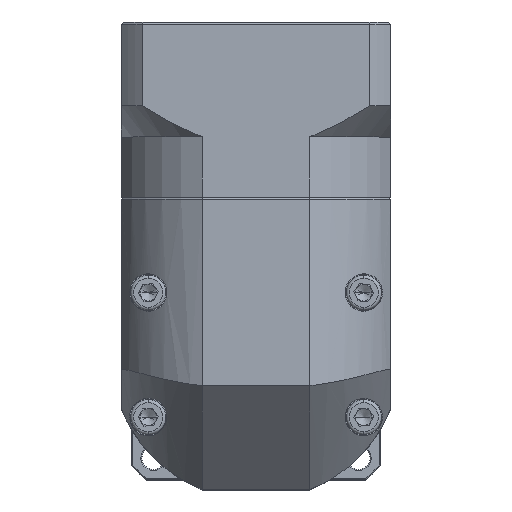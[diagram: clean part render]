
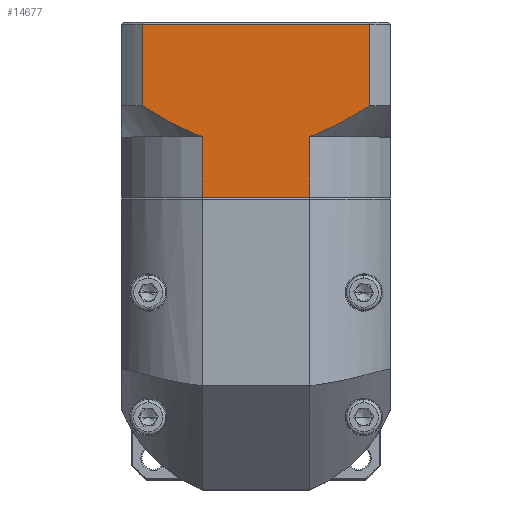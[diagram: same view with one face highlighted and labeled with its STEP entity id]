
A CAD part, top view. The second image highlights one B-rep face of the part: STEP entity #14677.
In plain terms, the highlighted planar face has unit normal (0, 0, 1).
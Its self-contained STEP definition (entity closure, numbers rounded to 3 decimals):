
#3533 = FACE_OUTER_BOUND ( 'NONE', #25184, .T. ) ;
#4363 = CARTESIAN_POINT ( 'NONE',  ( -81.062, 111.871, 47.226 ) ) ;
#4509 = VERTEX_POINT ( 'NONE', #38015 ) ;
#4707 = CARTESIAN_POINT ( 'NONE',  ( -23.444, 90.71, 47.226 ) ) ;
#5090 = CARTESIAN_POINT ( 'NONE',  ( -25.758, 89.322, 47.226 ) ) ;
#8056 = ORIENTED_EDGE ( 'NONE', *, *, #40813, .T. ) ;
#11055 = CARTESIAN_POINT ( 'NONE',  ( -81.062, 70.171, 47.226 ) ) ;
#13618 = CARTESIAN_POINT ( 'NONE',  ( -32.405, 85.962, 47.226 ) ) ;
#14677 = ADVANCED_FACE ( 'NONE', ( #3533 ), #73424, .F. ) ;
#15176 = CARTESIAN_POINT ( 'NONE',  ( -21.176, 92.171, 47.226 ) ) ;
#15422 = VECTOR ( 'NONE', #70615, 1000. ) ;
#16141 = CARTESIAN_POINT ( 'NONE',  ( -73.659, 90.723, 47.226 ) ) ;
#17537 = CARTESIAN_POINT ( 'NONE',  ( -21.176, 111.871, 47.226 ) ) ;
#17939 = CARTESIAN_POINT ( 'NONE',  ( -21.176, 84.671, 47.226 ) ) ;
#19329 = ORIENTED_EDGE ( 'NONE', *, *, #38780, .T. ) ;
#20173 = CARTESIAN_POINT ( 'NONE',  ( -75.948, 84.671, 47.226 ) ) ;
#21004 = DIRECTION ( 'NONE',  ( 0., -1., 0. ) ) ;
#21417 = DIRECTION ( 'NONE',  ( -1., 0., 0. ) ) ;
#23958 = CARTESIAN_POINT ( 'NONE',  ( -75.948, 92.171, 47.226 ) ) ;
#25184 = EDGE_LOOP ( 'NONE', ( #99388, #73769, #61615, #39451, #31493, #19329, #78812, #8056 ) ) ;
#26536 = CARTESIAN_POINT ( 'NONE',  ( -75.948, 92.171, 47.226 ) ) ;
#26732 = CARTESIAN_POINT ( 'NONE',  ( -75.948, 111.871, 47.226 ) ) ;
#28855 = CARTESIAN_POINT ( 'NONE',  ( -81.062, 112.371, 47.226 ) ) ;
#29438 = DIRECTION ( 'NONE',  ( 0., 1., 0. ) ) ;
#30323 = VECTOR ( 'NONE', #54692, 1000. ) ;
#31493 = ORIENTED_EDGE ( 'NONE', *, *, #39416, .F. ) ;
#36829 = CARTESIAN_POINT ( 'NONE',  ( -35.571, 70.171, 47.226 ) ) ;
#38015 = CARTESIAN_POINT ( 'NONE',  ( -61.552, 70.171, 47.226 ) ) ;
#38780 = EDGE_CURVE ( 'NONE', #4509, #112873, #65281, .T. ) ;
#39145 = CARTESIAN_POINT ( 'NONE',  ( -35.571, 84.671, 47.226 ) ) ;
#39416 = EDGE_CURVE ( 'NONE', #4509, #97359, #95614, .T. ) ;
#39451 = ORIENTED_EDGE ( 'NONE', *, *, #69298, .T. ) ;
#39517 = CARTESIAN_POINT ( 'NONE',  ( -34.29, 85.162, 47.226 ) ) ;
#40649 = CARTESIAN_POINT ( 'NONE',  ( -21.176, 92.171, 47.226 ) ) ;
#40813 = EDGE_CURVE ( 'NONE', #113583, #60632, #87244, .T. ) ;
#43191 = CARTESIAN_POINT ( 'NONE',  ( -64.09, 85.613, 47.226 ) ) ;
#49530 = VERTEX_POINT ( 'NONE', #17537 ) ;
#53308 = LINE ( 'NONE', #39145, #68531 ) ;
#54692 = DIRECTION ( 'NONE',  ( 0., 1., 0. ) ) ;
#54817 = DIRECTION ( 'NONE',  ( 1., 0., 0. ) ) ;
#56043 = VECTOR ( 'NONE', #29438, 1000. ) ;
#59403 = LINE ( 'NONE', #4363, #73270 ) ;
#60632 = VERTEX_POINT ( 'NONE', #15176 ) ;
#61615 = ORIENTED_EDGE ( 'NONE', *, *, #82647, .F. ) ;
#63891 = VERTEX_POINT ( 'NONE', #23958 ) ;
#64352 = CARTESIAN_POINT ( 'NONE',  ( -61.552, 84.671, 47.226 ) ) ;
#65003 = VERTEX_POINT ( 'NONE', #26732 ) ;
#65281 = LINE ( 'NONE', #11055, #84845 ) ;
#68531 = VECTOR ( 'NONE', #21004, 1000. ) ;
#69298 = EDGE_CURVE ( 'NONE', #63891, #97359, #87698, .T. ) ;
#70615 = DIRECTION ( 'NONE',  ( 0., -1., 0. ) ) ;
#73270 = VECTOR ( 'NONE', #21417, 1000. ) ;
#73424 = PLANE ( 'NONE',  #81552 ) ;
#73769 = ORIENTED_EDGE ( 'NONE', *, *, #75686, .T. ) ;
#74415 = CARTESIAN_POINT ( 'NONE',  ( -34.929, 84.91, 47.226 ) ) ;
#75686 = EDGE_CURVE ( 'NONE', #49530, #65003, #59403, .T. ) ;
#76503 = CARTESIAN_POINT ( 'NONE',  ( -61.552, 84.671, 47.226 ) ) ;
#78812 = ORIENTED_EDGE ( 'NONE', *, *, #111241, .F. ) ;
#79266 = CARTESIAN_POINT ( 'NONE',  ( -74.81, 91.438, 47.226 ) ) ;
#81552 = AXIS2_PLACEMENT_3D ( 'NONE', #28855, #90962, #84324 ) ;
#82647 = EDGE_CURVE ( 'NONE', #63891, #65003, #101856, .T. ) ;
#83782 = CARTESIAN_POINT ( 'NONE',  ( -35.571, 84.671, 47.226 ) ) ;
#83931 = EDGE_CURVE ( 'NONE', #49530, #60632, #105679, .T. ) ;
#84324 = DIRECTION ( 'NONE',  ( 0., 1., 0. ) ) ;
#84845 = VECTOR ( 'NONE', #54817, 1000. ) ;
#84946 = CARTESIAN_POINT ( 'NONE',  ( -30.551, 86.812, 47.226 ) ) ;
#86711 = CARTESIAN_POINT ( 'NONE',  ( -35.571, 84.671, 47.226 ) ) ;
#87055 = CARTESIAN_POINT ( 'NONE',  ( -71.324, 89.338, 47.226 ) ) ;
#87244 = B_SPLINE_CURVE_WITH_KNOTS ( 'NONE', 3,
 ( #83782, #74415, #39517, #112081, #13618, #84946, #93132, #5090, #4707, #40649 ),
 .UNSPECIFIED., .F., .F.,
 ( 4, 2, 2, 2, 4 ),
 ( 0.101, 0.103, 0.105, 0.109, 0.117 ),
 .UNSPECIFIED. ) ;
#87448 = CARTESIAN_POINT ( 'NONE',  ( -66.542, 86.758, 47.226 ) ) ;
#87698 = B_SPLINE_CURVE_WITH_KNOTS ( 'NONE', 3,
 ( #26536, #79266, #16141, #87055, #96017, #87448, #43191, #105304 ),
 .UNSPECIFIED., .F., .F.,
 ( 4, 2, 2, 4 ),
 ( 0.058, 0.062, 0.066, 0.074 ),
 .UNSPECIFIED. ) ;
#90962 = DIRECTION ( 'NONE',  ( 0., 0., -1. ) ) ;
#93132 = CARTESIAN_POINT ( 'NONE',  ( -29.339, 87.417, 47.226 ) ) ;
#95614 = LINE ( 'NONE', #64352, #30323 ) ;
#96017 = CARTESIAN_POINT ( 'NONE',  ( -70.138, 88.668, 47.226 ) ) ;
#97359 = VERTEX_POINT ( 'NONE', #76503 ) ;
#99388 = ORIENTED_EDGE ( 'NONE', *, *, #83931, .F. ) ;
#101856 = LINE ( 'NONE', #20173, #56043 ) ;
#105304 = CARTESIAN_POINT ( 'NONE',  ( -61.552, 84.671, 47.226 ) ) ;
#105679 = LINE ( 'NONE', #17939, #15422 ) ;
#111241 = EDGE_CURVE ( 'NONE', #113583, #112873, #53308, .T. ) ;
#112081 = CARTESIAN_POINT ( 'NONE',  ( -33.029, 85.688, 47.226 ) ) ;
#112873 = VERTEX_POINT ( 'NONE', #36829 ) ;
#113583 = VERTEX_POINT ( 'NONE', #86711 ) ;
